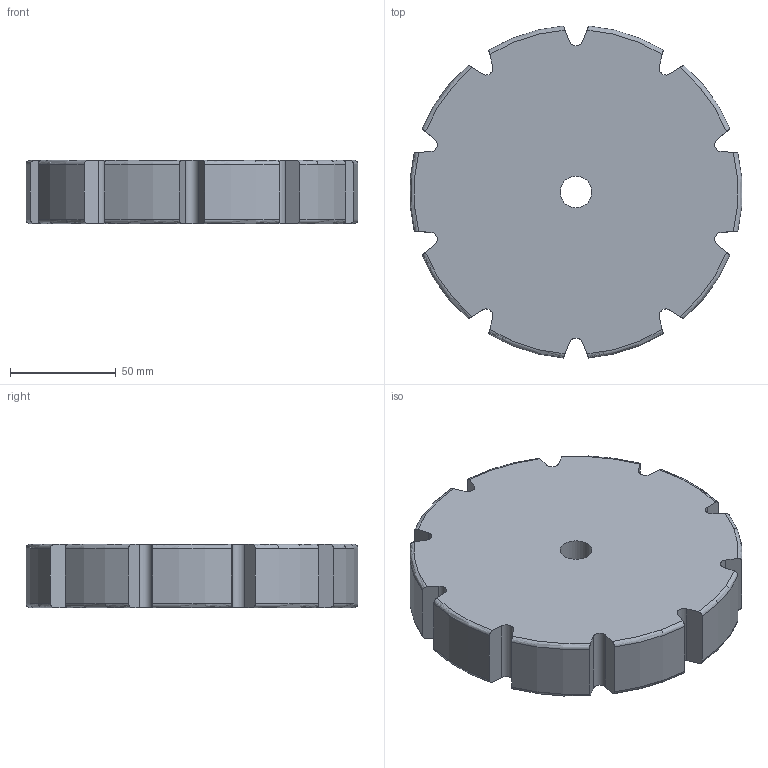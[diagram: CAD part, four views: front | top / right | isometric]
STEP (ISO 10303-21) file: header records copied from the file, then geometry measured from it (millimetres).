
FILE_DESCRIPTION(/* description */ ('Unknown'),/* implementation_level */ '2;1');
FILE_NAME(/* name */ 'GEN0001-D437 FB Z10 D189.4 PB blue',/* time_stamp */ '2020-05-28T16:51:32+02:00',/* author */ ('Unknown'),/* organization */ ('Unknown'),/* preprocessor_version */ 'ST-DEVELOPER v16.7',/* originating_system */ 'DEX',/* authorisation */ $);
FILE_SCHEMA (('AUTOMOTIVE_DESIGN {1 0 10303 214 3 1 1}'));
Length unit declared in the file: millimetre
Products named in the file (1): GEN0001-D437 FB Z10 D189.4 PB blue
Bounding box: 157 x 157.05 x 30 mm (x, y, z)
Volume: 555507.8 mm3; surface area: 56139.9 mm2
Topology: 1 solids, 1 shells, 63 faces, 183 edges, 122 vertices
Faces by surface type: plane 22, cylinder 21, torus 20
Full cylindrical faces by diameter (mm): 15 x1
Entity records: 2208 total; most frequent: CARTESIAN_POINT 528, ORIENTED_EDGE 364, DIRECTION 332, EDGE_CURVE 182, AXIS2_PLACEMENT_3D 126, VERTEX_POINT 122, LINE 80, VECTOR 80
